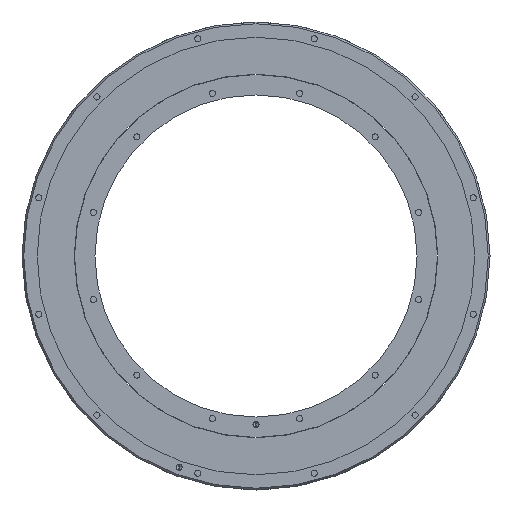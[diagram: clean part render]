
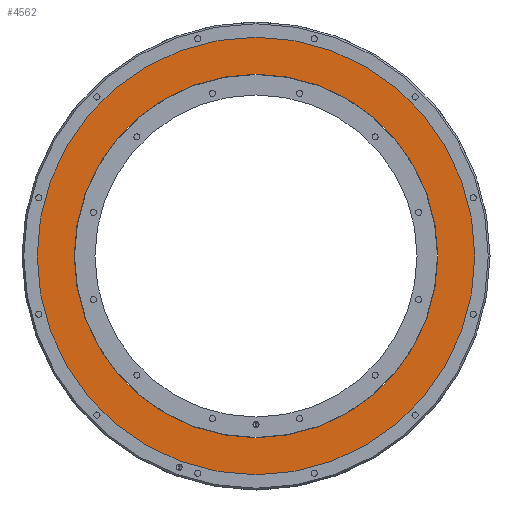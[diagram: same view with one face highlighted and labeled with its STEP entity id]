
A CAD part, front view. The second image highlights one B-rep face of the part: STEP entity #4562.
In plain terms, the highlighted planar face has unit normal (0, -1, 0).
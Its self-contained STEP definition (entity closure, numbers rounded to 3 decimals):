
#284 = CARTESIAN_POINT ( 'NONE',  ( 0., 1., 0. ) ) ;
#366 = DIRECTION ( 'NONE',  ( 0., -1., 0. ) ) ;
#393 = VERTEX_POINT ( 'NONE', #4180 ) ;
#689 = AXIS2_PLACEMENT_3D ( 'NONE', #2952, #366, #4580 ) ;
#759 = DIRECTION ( 'NONE',  ( 0., -1., 0. ) ) ;
#1141 = AXIS2_PLACEMENT_3D ( 'NONE', #284, #4519, #3995 ) ;
#1209 = AXIS2_PLACEMENT_3D ( 'NONE', #2851, #2837, #3936 ) ;
#1835 = EDGE_CURVE ( 'NONE', #2099, #5270, #4831, .T. ) ;
#2099 = VERTEX_POINT ( 'NONE', #3694 ) ;
#2267 = ORIENTED_EDGE ( 'NONE', *, *, #1835, .T. ) ;
#2514 = ORIENTED_EDGE ( 'NONE', *, *, #5926, .F. ) ;
#2609 = VERTEX_POINT ( 'NONE', #6481 ) ;
#2629 = FACE_BOUND ( 'NONE', #6931, .T. ) ;
#2837 = DIRECTION ( 'NONE',  ( 0., -1., 0. ) ) ;
#2849 = AXIS2_PLACEMENT_3D ( 'NONE', #4433, #759, #3435 ) ;
#2851 = CARTESIAN_POINT ( 'NONE',  ( 0., 1., 0. ) ) ;
#2855 = ORIENTED_EDGE ( 'NONE', *, *, #6887, .F. ) ;
#2908 = CIRCLE ( 'NONE', #1209, 149.5 ) ;
#2952 = CARTESIAN_POINT ( 'NONE',  ( 0., 1., 0. ) ) ;
#3183 = CARTESIAN_POINT ( 'NONE',  ( 149.5, 1., 0. ) ) ;
#3304 = FACE_OUTER_BOUND ( 'NONE', #5051, .T. ) ;
#3435 = DIRECTION ( 'NONE',  ( 0., 0., -1. ) ) ;
#3694 = CARTESIAN_POINT ( 'NONE',  ( 0., 1., -180. ) ) ;
#3936 = DIRECTION ( 'NONE',  ( 0., 0., -1. ) ) ;
#3995 = DIRECTION ( 'NONE',  ( 0., 0., -1. ) ) ;
#4180 = CARTESIAN_POINT ( 'NONE',  ( 0., 1., 149.5 ) ) ;
#4225 = CARTESIAN_POINT ( 'NONE',  ( 0., 1., 180. ) ) ;
#4433 = CARTESIAN_POINT ( 'NONE',  ( 0., 1., 0. ) ) ;
#4519 = DIRECTION ( 'NONE',  ( 0., -1., 0. ) ) ;
#4562 = ADVANCED_FACE ( 'NONE', ( #3304, #2629 ), #6794, .T. ) ;
#4571 = CIRCLE ( 'NONE', #2849, 180. ) ;
#4580 = DIRECTION ( 'NONE',  ( 0., 0., -1. ) ) ;
#4831 = CIRCLE ( 'NONE', #1141, 180. ) ;
#4964 = CIRCLE ( 'NONE', #689, 149.5 ) ;
#5051 = EDGE_LOOP ( 'NONE', ( #2267, #6633 ) ) ;
#5195 = DIRECTION ( 'NONE',  ( 0., 0., -1. ) ) ;
#5270 = VERTEX_POINT ( 'NONE', #4225 ) ;
#5588 = AXIS2_PLACEMENT_3D ( 'NONE', #3183, #5827, #5195 ) ;
#5827 = DIRECTION ( 'NONE',  ( 0., -1., 0. ) ) ;
#5926 = EDGE_CURVE ( 'NONE', #393, #2609, #2908, .T. ) ;
#5943 = EDGE_CURVE ( 'NONE', #5270, #2099, #4571, .T. ) ;
#6481 = CARTESIAN_POINT ( 'NONE',  ( 0., 1., -149.5 ) ) ;
#6633 = ORIENTED_EDGE ( 'NONE', *, *, #5943, .T. ) ;
#6794 = PLANE ( 'NONE',  #5588 ) ;
#6887 = EDGE_CURVE ( 'NONE', #2609, #393, #4964, .T. ) ;
#6931 = EDGE_LOOP ( 'NONE', ( #2855, #2514 ) ) ;
